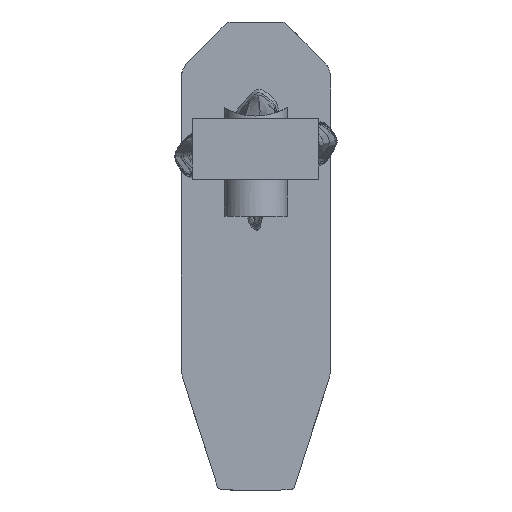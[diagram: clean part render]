
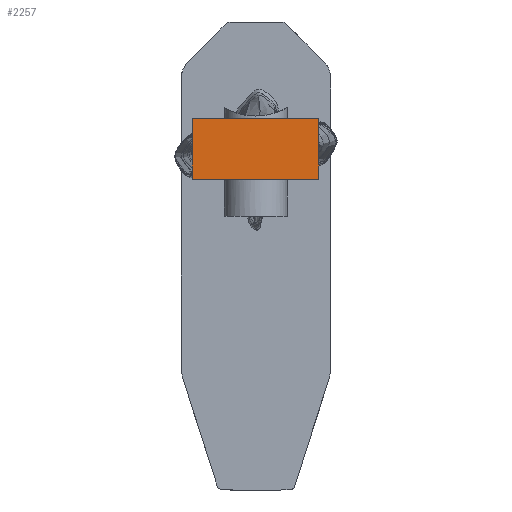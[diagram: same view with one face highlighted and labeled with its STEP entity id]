
A CAD part, left-side view. The second image highlights one B-rep face of the part: STEP entity #2257.
In plain terms, the highlighted planar face has unit normal (-1, 0, 0).
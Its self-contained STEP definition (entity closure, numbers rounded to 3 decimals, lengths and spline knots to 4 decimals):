
#188=FACE_OUTER_BOUND('',#353,.T.);
#353=EDGE_LOOP('',(#1547,#1548,#1549,#1550));
#508=LINE('',#4433,#530);
#511=LINE('',#4438,#533);
#513=LINE('',#4442,#535);
#515=LINE('',#4445,#537);
#530=VECTOR('',#2475,1.);
#533=VECTOR('',#2480,1.);
#535=VECTOR('',#2484,1.);
#537=VECTOR('',#2488,1.);
#926=VERTEX_POINT('',#4431);
#927=VERTEX_POINT('',#4432);
#928=VERTEX_POINT('',#4437);
#929=VERTEX_POINT('',#4441);
#1143=EDGE_CURVE('',#926,#927,#508,.T.);
#1146=EDGE_CURVE('',#927,#928,#511,.T.);
#1148=EDGE_CURVE('',#929,#928,#513,.T.);
#1150=EDGE_CURVE('',#926,#929,#515,.T.);
#1547=ORIENTED_EDGE('',*,*,#1148,.F.);
#1548=ORIENTED_EDGE('',*,*,#1150,.F.);
#1549=ORIENTED_EDGE('',*,*,#1143,.T.);
#1550=ORIENTED_EDGE('',*,*,#1146,.T.);
#2234=PLANE('',#2428);
#2257=ADVANCED_FACE('',(#188),#2234,.F.);
#2428=AXIS2_PLACEMENT_3D('',#4446,#2489,#2490);
#2475=DIRECTION('',(0.,-1.,0.));
#2480=DIRECTION('',(0.,0.,1.));
#2484=DIRECTION('',(0.,-1.,0.));
#2488=DIRECTION('',(0.,0.,1.));
#2489=DIRECTION('center_axis',(1.,0.,0.));
#2490=DIRECTION('ref_axis',(0.,0.,
-1.));
#4431=CARTESIAN_POINT('',(-20.32,1.7145,-3.429));
#4432=CARTESIAN_POINT('',(-20.32,-1.7145,-3.429));
#4433=CARTESIAN_POINT('',(-20.32,0.,-3.429));
#4437=CARTESIAN_POINT('',(-20.32,-1.7145,-1.778));
#4438=CARTESIAN_POINT('',(-20.32,-1.7145,-3.429));
#4441=CARTESIAN_POINT('',(-20.32,1.7145,-1.778));
#4442=CARTESIAN_POINT('',(-20.32,1.7145,-1.778));
#4445=CARTESIAN_POINT('',(-20.32,1.7145,-3.429));
#4446=CARTESIAN_POINT('Origin',(-20.32,0.,-2.6035));
